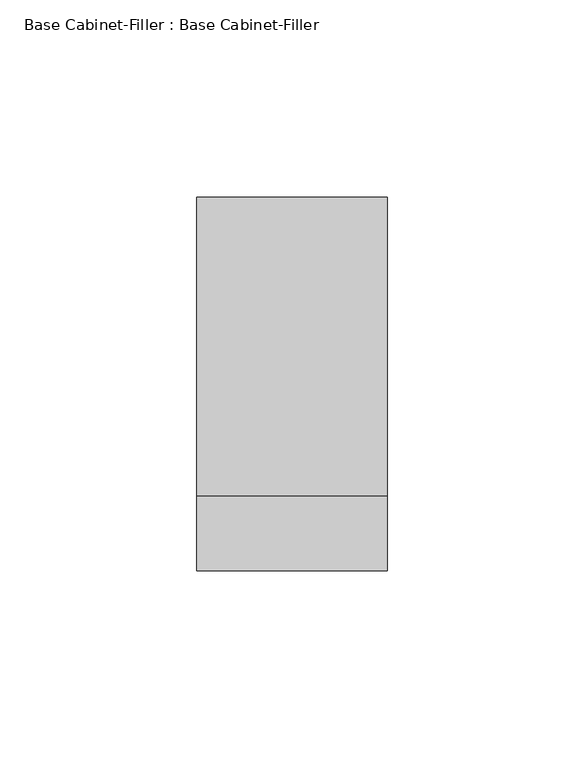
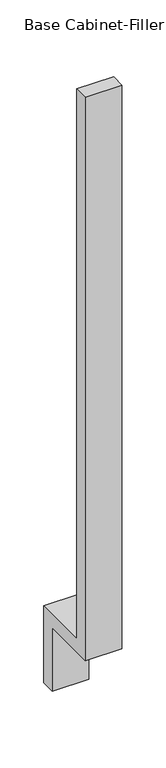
"""IFC4 building model written with IfcOpenShell, lengths in millimetres: furniture geometry, Base Cabinet-Filler : Base Cabinet-Filler."""

from ifc_helpers import new_model, si_unit, frame, origin, place, context, project, spatial, polyline, outline, extrude, source, transform, mapped, element, save


def base_cabinet_filler_base_cabinet_filler_2f0b3f4e(model_context):
    return source(origin(), model_context, "Body", "SweptSolid", [
        extrude(outline(polyline([(-609.6, 88.9), (-609.6, 876.3), (-590.55, 876.3), (-590.55, 107.95), (-514.35, 107.95), (-514.35, 0.0), (-533.4, 0.0), (-533.4, 88.9), (-609.6, 88.9)])), frame((-5.5090644, 0.0, 0.0), z_axis=(1.0, 0.0, 0.0), x_axis=(0.0, 1.0, 0.0)), (0.0, 0.0, 1.0), 48.4935387),
    ])


if __name__ == "__main__":
    model = new_model("IFC4")
    model_context = context("Model", 3, world=origin())
    ifc_project = project(units=[si_unit("LENGTHUNIT", "METRE", prefix="MILLI")], contexts=[model_context])
    site = spatial("IfcSite", under=ifc_project)
    building = spatial("IfcBuilding", under=site)
    placement = place(None, origin())
    base_cabinet_filler_base_cabinet_filler_shape = base_cabinet_filler_base_cabinet_filler_2f0b3f4e(model_context)
    element("IfcFurniture", 1, ObjectType="Base Cabinet-Filler : Base Cabinet-Filler", at=placement, inside=building, context=model_context, shape_type="MappedRepresentation", body=[
        mapped(base_cabinet_filler_base_cabinet_filler_shape, transform((0.0, 0.0, 0.0), x_axis=(1.0, 0.0, 0.0), y_axis=(0.0, 1.0, 0.0), z_axis=(0.0, 0.0, 1.0))),
    ])
    save(model, "model.ifc")
